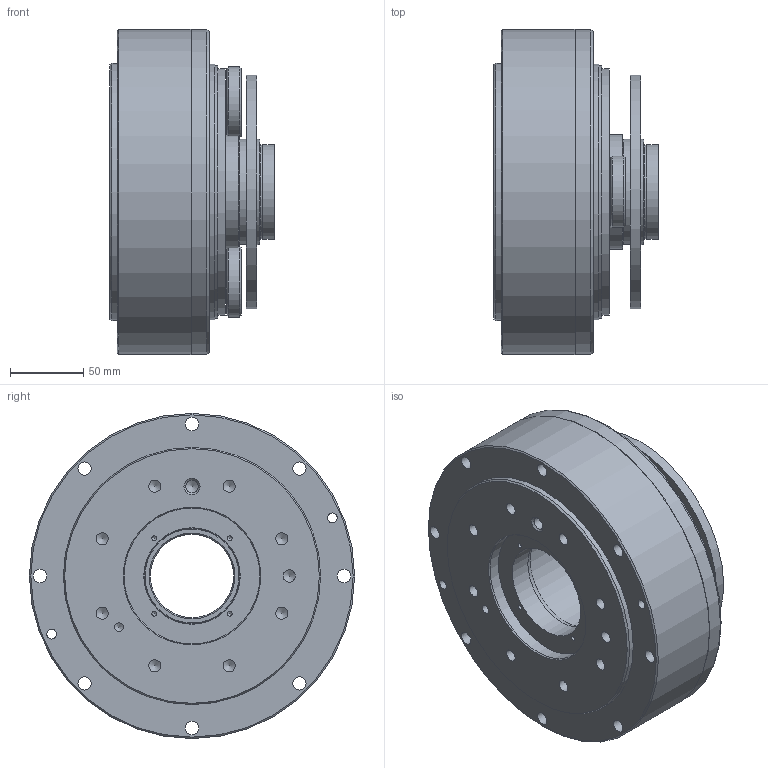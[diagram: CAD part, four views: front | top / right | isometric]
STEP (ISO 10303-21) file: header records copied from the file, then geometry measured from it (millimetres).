
FILE_DESCRIPTION((''),'2;1');
FILE_NAME('C:\Mike''s Jobs\4-MIKE-FROM-TH\Nabtesco\RV-Series\RV-50C-BoltType.stp','2005-08-31T10:31:46',('Jeff Miles'),(''),'Autodesk Inventor 10','Autodesk Inventor 10','');
FILE_SCHEMA(('AUTOMOTIVE_DESIGN { 1 0 10303 214 1 1 1 1 }'));
Length unit declared in the file: millimetre
Products named in the file (8): RV-50C-BoltType; RV-50C-StandardCenterGear; AS 1420  - Metric M8 x 16; RV-50C-Gear; RV-50C-BoltType-Ball; RV-50C-BoltType-Bearing; RV-50c-BoltType-Ball2
Assembly tree (92 placements, depth 2):
  RV-50C-BoltType
    RV-50C-BoltType
    RV-50C-StandardCenterGear
    AS 1420  - Metric M8 x 16  x6
    RV-50C-Gear  x2
    RV-50C-BoltType-Ball  x45
    RV-50C-BoltType-Bearing
    RV-50c-BoltType-Ball2  x36
Bounding box: 112.5 x 222.5 x 222.5 mm (x, y, z)
Volume: 2584205.3 mm3; surface area: 290860.8 mm2
Topology: 93 solids, 93 shells, 330 faces, 782 edges, 506 vertices
Faces by surface type: sphere 81, plane 80, bspline 79, cylinder 46, cone 34, torus 10
Full cylindrical faces by diameter (mm): 8 x6, 13 x6, 15 x4, 48.75 x2, 57 x1, 64.5 x2, 65 x2, 66 x2, 70 x1, 71 x2, 72 x2, 78.73 x1, 79 x2, 80 x1, 85 x2, 86 x1, 93 x1, 160 x1, 169 x1, 173 x1, 175 x1, 176 x1, 185 x1, 222 x1, 222.5 x1
Entity records: 5539 total; most frequent: CARTESIAN_POINT 1924, DIRECTION 750, ORIENTED_EDGE 386, AXIS2_PLACEMENT_3D 369, EDGE_LOOP 356, EDGE_CURVE 193, VERTEX_POINT 189, FACE_BOUND 183
